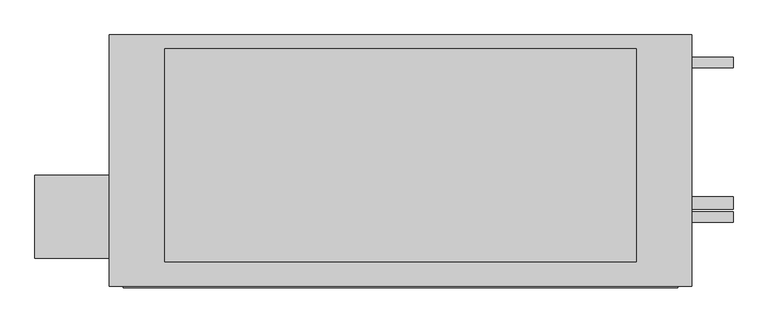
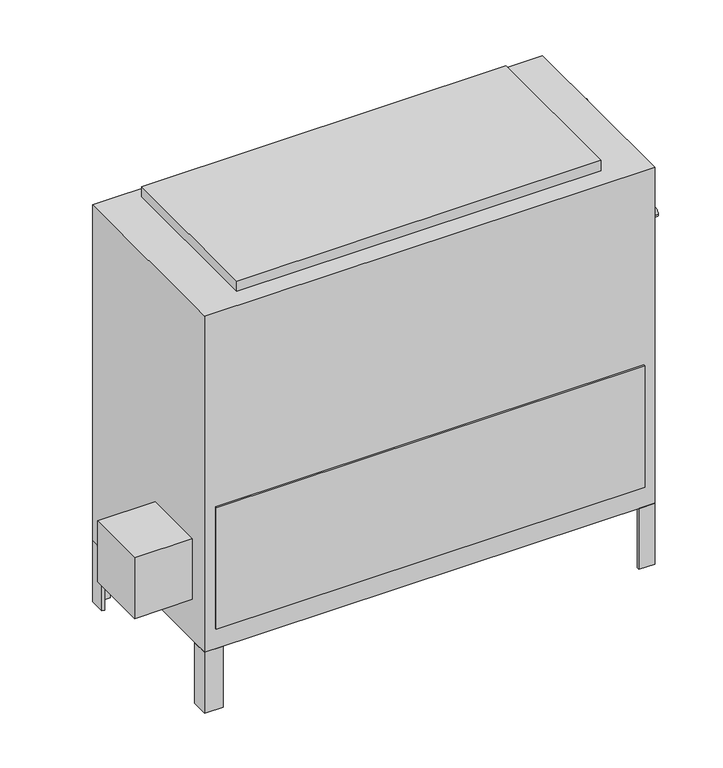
"""IFC4 building model written with IfcOpenShell, lengths in millimetres: proxy geometry, Concealed_High_Capacity_Vertical_Fan_Coil_Unit_-_42DDA_-_CARRIER_-_2-Pipe_Cool-EHeat_RH_2022 : Size 14 - 277v/60Hz/1Ph - 6 Row 10.0kW."""

from ifc_helpers import new_model, si_unit, point, frame, frame_2d, origin, origin_with_axes, place, context, project, spatial, polyline, circle_curve, trimmed, segment, composite_curve, outline, extrude, source, transform, mapped, element, save


def mechanical_equipment_40b3ffb7(model_context):
    return source(origin(), model_context, "Body", "SweptSolid", [
        extrude(outline(polyline([(-517.525, -417.5125), (-517.525, -265.1125), (-381.0, -265.1125), (-381.0, -417.5125), (-517.525, -417.5125)])), frame((0.0, 0.0, 101.6), z_axis=(0.0, 0.0, 1.0), x_axis=(1.0, 0.0, 0.0)), (0.0, 0.0, 1.0), 152.4),
        extrude(outline(polyline([(685.8, -46.0375), (679.45, -46.0375), (679.45, -14.2875), (647.7, -14.2875), (647.7, -7.9375), (685.8, -7.9375), (685.8, -46.0375)])), frame((0.0, 0.0, -152.4), z_axis=(0.0, 0.0, 1.0), x_axis=(1.0, 0.0, 0.0)), (0.0, 0.0, 1.0), 152.4),
        extrude(outline(polyline([(-342.9, -7.9375), (-342.9, -14.2875), (-374.65, -14.2875), (-374.65, -46.0375), (-381.0, -46.0375), (-381.0, -7.9375), (-342.9, -7.9375)])), frame((0.0, 0.0, -152.4), z_axis=(0.0, 0.0, 1.0), x_axis=(1.0, 0.0, 0.0)), (0.0, 0.0, 1.0), 152.4),
        extrude(outline(polyline([(647.7, -468.3125), (647.7, -461.9625), (679.45, -461.9625), (679.45, -430.2125), (685.8, -430.2125), (685.8, -468.3125), (647.7, -468.3125)])), frame((0.0, 0.0, -152.4), z_axis=(0.0, 0.0, 1.0), x_axis=(1.0, 0.0, 0.0)), (0.0, 0.0, 1.0), 152.4),
        extrude(outline(polyline([(-381.0, -428.1199163), (-374.65, -428.1199163), (-374.65, -461.9625), (-337.5318533, -461.9625), (-337.5318533, -468.3125), (-381.0, -468.3125), (-381.0, -428.1199163)])), frame((0.0, 0.0, -152.4), z_axis=(0.0, 0.0, 1.0), x_axis=(1.0, 0.0, 0.0)), (0.0, 0.0, 1.0), 152.4),
        extrude(outline(polyline([(584.2, -33.3375), (584.2, -423.8625), (-279.4, -423.8625), (-279.4, -33.3375), (584.2, -33.3375)])), frame((0.0, 0.0, 841.375), z_axis=(0.0, 0.0, 1.0), x_axis=(1.0, 0.0, 0.0)), (0.0, 0.0, 1.0), 25.4),
        extrude(outline(polyline([(660.4, -471.4875), (-355.6, -471.4875), (-355.6, -468.3125), (660.4, -468.3125), (660.4, -471.4875)])), frame((0.0, 0.0, 50.8), z_axis=(0.0, 0.0, 1.0), x_axis=(1.0, 0.0, 0.0)), (0.0, 0.0, 1.0), 304.8),
        extrude(outline(composite_curve([segment(trimmed(circle_curve(frame_2d((-58.7375, 727.075)), 9.525), [point((-49.2125, 727.075))], [point((-68.2625, 727.075))], False, "CARTESIAN"), True, "CONTINUOUS"), segment(trimmed(circle_curve(frame_2d((-58.7375, 727.075)), 9.525), [point((-68.2625, 727.075))], [point((-49.2125, 727.075))], False, "CARTESIAN"), True, "CONTINUOUS")], self_intersect=False)), frame((685.8, 0.0, 0.0), z_axis=(1.0, 0.0, 0.0), x_axis=(0.0, 1.0, 0.0)), (0.0, 0.0, 1.0), 76.2),
        extrude(outline(composite_curve([segment(trimmed(circle_curve(frame_2d((-341.3125, 625.475)), 9.525), [point((-331.7875, 625.475))], [point((-350.8375, 625.475))], False, "CARTESIAN"), True, "CONTINUOUS"), segment(trimmed(circle_curve(frame_2d((-341.3125, 625.475)), 9.525), [point((-350.8375, 625.475))], [point((-331.7875, 625.475))], False, "CARTESIAN"), True, "CONTINUOUS")], self_intersect=False)), frame((685.8, 0.0, 0.0), z_axis=(1.0, 0.0, 0.0), x_axis=(0.0, 1.0, 0.0)), (0.0, 0.0, 1.0), 76.2),
        extrude(outline(composite_curve([segment(trimmed(circle_curve(frame_2d((-315.9125, 536.575)), 11.1125), [point((-304.8, 536.575))], [point((-327.025, 536.575))], False, "CARTESIAN"), True, "CONTINUOUS"), segment(trimmed(circle_curve(frame_2d((-315.9125, 536.575)), 11.1125), [point((-327.025, 536.575))], [point((-304.8, 536.575))], False, "CARTESIAN"), True, "CONTINUOUS")], self_intersect=False)), frame((685.8, 0.0, 0.0), z_axis=(1.0, 0.0, 0.0), x_axis=(0.0, 1.0, 0.0)), (0.0, 0.0, 1.0), 76.2),
        extrude(outline(polyline([(685.8, -7.9375), (685.8, -468.3125), (-381.0, -468.3125), (-381.0, -7.9375), (685.8, -7.9375)])), origin_with_axes(), (0.0, 0.0, 1.0), 841.375),
    ])


if __name__ == "__main__":
    model = new_model("IFC4")
    model_context = context("Model", 3, world=origin())
    ifc_project = project(units=[si_unit("LENGTHUNIT", "METRE", prefix="MILLI")], contexts=[model_context])
    site = spatial("IfcSite", under=ifc_project)
    building = spatial("IfcBuilding", under=site)
    placement = place(None, origin())
    mechanical_equipment_shape = mechanical_equipment_40b3ffb7(model_context)
    element("IfcBuildingElementProxy", 1, Name="Concealed_High_Capacity_Vertical_Fan_Coil_Unit_-_42DDA_-_CARRIER_-_2-Pipe_Cool-EHeat_RH_2022 : Size 14 - 277v/60Hz/1Ph - 6 Row 10.0kW", ObjectType="Concealed_High_Capacity_Vertical_Fan_Coil_Unit_-_42DDA_-_CARRIER_-_2-Pipe_Cool-EHeat_RH_2022 : Size 14 - 277v/60Hz/1Ph - 6 Row 10.0kW", at=placement, inside=building, context=model_context, shape_type="MappedRepresentation", body=[
        mapped(mechanical_equipment_shape, transform((0.0, 0.0, 0.0), x_axis=(1.0, 0.0, 0.0), y_axis=(0.0, 1.0, 0.0), z_axis=(0.0, 0.0, 1.0))),
    ])
    save(model, "model.ifc")
